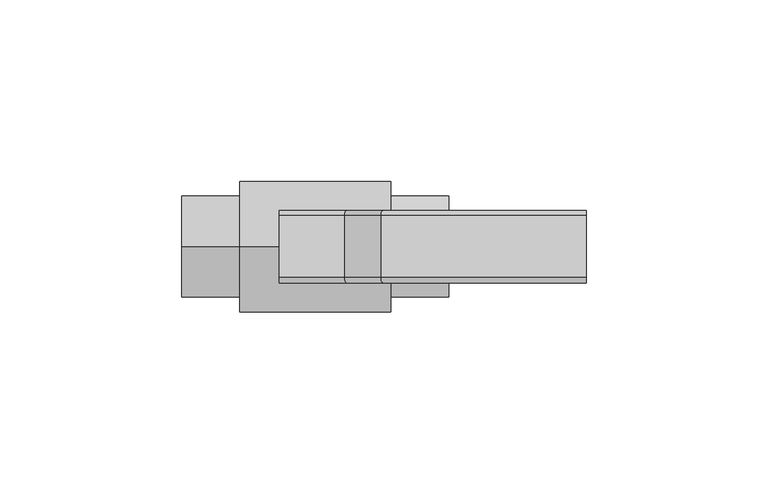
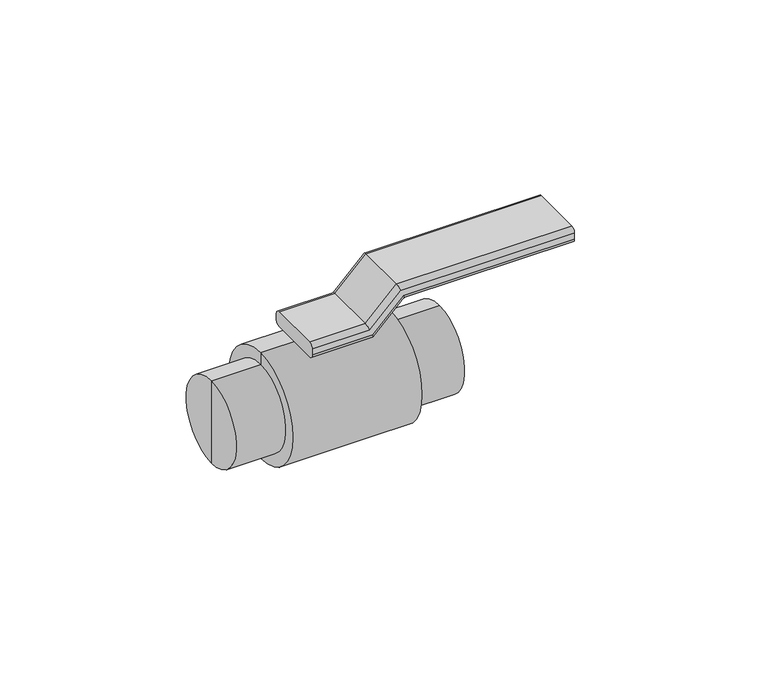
"""IFC4 building model written with IfcOpenShell, lengths in millimetres: valve geometry, NIRON RED valvula de paso esfera : Estándar."""

from ifc_helpers import new_model, si_unit, frame, origin, place, context, project, spatial, circle_curve, ellipse_curve, source, transform, mapped, element, save
from ifc_brep_helpers import plane_surface, cylinder_surface, advanced_brep


def valve_88f586d3(model_context):
    return source(origin(), model_context, "Body", "AdvancedBrep", [
        advanced_brep(
        [(-10.0, 8.4844945, 18.0), (-10.0, -8.5, 18.0), (-10.0, -10.0, 19.5), (-10.0, -10.0, 21.5), (-10.0, -8.5, 23.0), (-10.0, 8.5, 23.0), (-10.0, 10.0, 21.5), (-10.0, 10.0, 19.5155055), (10.0, 8.4844945, 18.0), (10.0, -8.5, 18.0), (9.3786797, -10.0, 19.5), (19.3786797, -10.0, 29.5), (74.5, -10.0, 29.5), (74.5, -10.0, 31.5), (18.5502525, -10.0, 31.5), (8.5502525, -10.0, 21.5), (7.9289322, -8.5, 23.0), (7.9289322, 8.5, 23.0), (8.5502525, 10.0, 21.5), (18.5502525, 10.0, 31.5), (74.5, 10.0, 31.5), (74.5, 10.0, 29.5155055), (19.3722571, 10.0, 29.5155055), (9.3722571, 10.0, 19.5155055), (20.0, 8.4844945, 28.0), (20.0, -8.5, 28.0), (17.9289322, -8.5, 33.0), (17.9289322, 8.5, 33.0), (74.5, 8.4844945, 28.0), (74.5, 8.5, 33.0), (74.5, -8.5, 33.0), (74.5, -8.5, 28.0)],
        [
            (0, 1),
            (1, 2, circle_curve(frame((-10.0, -8.5, 19.5), z_axis=(-1.0, 0.0, 0.0), x_axis=(0.0, 0.0, 1.0)), 1.5)),
            (2, 3),
            (3, 4, circle_curve(frame((-10.0, -8.5, 21.5), z_axis=(-1.0, 0.0, 0.0), x_axis=(0.0, 0.0, 1.0)), 1.5)),
            (4, 5),
            (5, 6, circle_curve(frame((-10.0, 8.5, 21.5), z_axis=(-1.0, 0.0, 0.0), x_axis=(0.0, 0.0, 1.0)), 1.5)),
            (6, 7),
            (7, 0, circle_curve(frame((-10.0, 8.4844945, 19.5155055), z_axis=(-1.0, 0.0, 0.0), x_axis=(0.0, 0.0, 1.0)), 1.5155055)),
            (0, 8),
            (8, 9),
            (9, 1),
            (9, 10, ellipse_curve(frame((9.3786797, -8.5, 19.5), z_axis=(-0.9238795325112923, 0.0, -0.38268343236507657), x_axis=(-0.38268343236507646, 0.0, 0.9238795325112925)), 1.6235883, 1.5)),
            (10, 2),
            (10, 11),
            (11, 12),
            (12, 13),
            (13, 14),
            (14, 15),
            (15, 3),
            (15, 16, ellipse_curve(frame((8.5502525, -8.5, 21.5), z_axis=(-0.9238795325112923, 0.0, -0.38268343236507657), x_axis=(-0.38268343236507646, 0.0, 0.9238795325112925)), 1.6235883, 1.5)),
            (16, 4),
            (16, 17),
            (17, 5),
            (17, 18, ellipse_curve(frame((8.5502525, 8.5, 21.5), z_axis=(-0.9238795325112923, 0.0, -0.38268343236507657), x_axis=(-0.38268343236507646, 0.0, 0.9238795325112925)), 1.6235883, 1.5)),
            (18, 6),
            (18, 19),
            (19, 20),
            (20, 21),
            (21, 22),
            (22, 23),
            (23, 7),
            (23, 8, ellipse_curve(frame((9.3722571, 8.4844945, 19.5155055), z_axis=(-0.9238795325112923, 0.0, -0.38268343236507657), x_axis=(-0.38268343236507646, 0.0, 0.9238795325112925)), 1.6403713, 1.5155055)),
            (8, 24),
            (24, 25),
            (25, 9),
            (25, 11, ellipse_curve(frame((19.3786797, -8.5, 29.5), z_axis=(-0.9238795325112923, 0.0, -0.38268343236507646), x_axis=(0.3826834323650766, 0.0, -0.9238795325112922)), 1.6235883, 1.5)),
            (14, 26, ellipse_curve(frame((18.5502525, -8.5, 31.5), z_axis=(-0.9238795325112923, 0.0, -0.38268343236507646), x_axis=(0.3826834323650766, 0.0, -0.9238795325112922)), 1.6235883, 1.5)),
            (26, 16),
            (26, 27),
            (27, 17),
            (27, 19, ellipse_curve(frame((18.5502525, 8.5, 31.5), z_axis=(-0.9238795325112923, 0.0, -0.38268343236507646), x_axis=(0.3826834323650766, 0.0, -0.9238795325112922)), 1.6235883, 1.5)),
            (22, 24, ellipse_curve(frame((19.3722571, 8.4844945, 29.5155055), z_axis=(-0.9238795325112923, 0.0, -0.38268343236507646), x_axis=(0.3826834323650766, 0.0, -0.9238795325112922)), 1.6403713, 1.5155055)),
            (28, 21, circle_curve(frame((74.5, 8.4844945, 29.5155055), z_axis=(1.0, 0.0, 0.0), x_axis=(0.0, 0.0, 1.0)), 1.5155055)),
            (20, 29, circle_curve(frame((74.5, 8.5, 31.5), z_axis=(1.0, 0.0, 0.0), x_axis=(0.0, 0.0, 1.0)), 1.5)),
            (29, 30),
            (30, 13, circle_curve(frame((74.5, -8.5, 31.5), z_axis=(1.0, 0.0, 0.0), x_axis=(0.0, 0.0, 1.0)), 1.5)),
            (12, 31, circle_curve(frame((74.5, -8.5, 29.5), z_axis=(1.0, 0.0, 0.0), x_axis=(0.0, 0.0, 1.0)), 1.5)),
            (31, 28),
            (24, 28),
            (31, 25),
            (30, 26),
            (29, 27),
        ],
        [
            plane_surface(frame((-10.0, 0.0, 18.0), z_axis=(-1.0, 0.0, 0.0), x_axis=(0.0, -1.0, 0.0))),
            plane_surface(frame((-10.0, 8.4844945, 18.0), z_axis=(0.0, 0.0, -1.0), x_axis=(1.0, 0.0, 0.0))),
            cylinder_surface(frame((-10.0, -8.5, 19.5), z_axis=(-1.0, 0.0, 0.0), x_axis=(0.0, 0.0, 1.0)), 1.5),
            plane_surface(frame((-10.0, -10.0, 19.5), z_axis=(0.0, -1.0, 0.0), x_axis=(1.0, 0.0, 0.0))),
            cylinder_surface(frame((-10.0, -8.5, 21.5), z_axis=(-1.0, 0.0, 0.0), x_axis=(0.0, 0.0, 1.0)), 1.5),
            plane_surface(frame((-10.0, -8.5, 23.0), z_axis=(0.0, 0.0, 1.0), x_axis=(1.0, 0.0, 0.0))),
            cylinder_surface(frame((-10.0, 8.5, 21.5), z_axis=(-1.0, 0.0, 0.0), x_axis=(0.0, 0.0, 1.0)), 1.5),
            plane_surface(frame((-10.0, 10.0, 21.5), z_axis=(0.0, 1.0, 0.0), x_axis=(1.0, 0.0, 0.0))),
            cylinder_surface(frame((-10.0, 8.4844945, 19.5155055), z_axis=(-1.0, 0.0, 0.0), x_axis=(0.0, 0.0, 1.0)), 1.5155055),
            plane_surface(frame((10.0, 8.4844945, 18.0), z_axis=(0.7071067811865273, 0.0, -0.7071067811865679), x_axis=(0.7071067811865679, 0.0, 0.7071067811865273))),
            cylinder_surface(frame((8.9393398, -8.5, 19.0606602), z_axis=(-0.7071067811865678, 0.0, -0.7071067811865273), x_axis=(-0.7071067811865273, 0.0, 0.7071067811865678)), 1.5),
            cylinder_surface(frame((7.5251263, -8.5, 20.4748737), z_axis=(-0.7071067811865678, 0.0, -0.7071067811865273), x_axis=(-0.7071067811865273, 0.0, 0.7071067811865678)), 1.5),
            plane_surface(frame((7.9289322, -8.5, 23.0), z_axis=(-0.7071067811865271, 0.0, 0.7071067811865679), x_axis=(0.7071067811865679, 0.0, 0.7071067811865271))),
            cylinder_surface(frame((7.5251263, 8.5, 20.4748737), z_axis=(-0.7071067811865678, 0.0, -0.7071067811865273), x_axis=(-0.7071067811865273, 0.0, 0.7071067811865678)), 1.5),
            cylinder_surface(frame((8.9283758, 8.4844945, 19.0716242), z_axis=(-0.7071067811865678, 0.0, -0.7071067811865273), x_axis=(-0.7071067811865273, 0.0, 0.7071067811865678)), 1.5155055),
            plane_surface(frame((74.5, 0.0, 28.0), z_axis=(1.0, 0.0, 0.0), x_axis=(0.0, -1.0, 0.0))),
            plane_surface(frame((20.0, 8.4844945, 28.0), z_axis=(0.0, 0.0, -1.0), x_axis=(1.0, 0.0, 0.0))),
            cylinder_surface(frame((20.0, -8.5, 29.5), z_axis=(-1.0, 0.0, 0.0), x_axis=(0.0, 0.0, 1.0)), 1.5),
            cylinder_surface(frame((20.0, -8.5, 31.5), z_axis=(-1.0, 0.0, 0.0), x_axis=(0.0, 0.0, 1.0)), 1.5),
            plane_surface(frame((17.9289322, -8.5, 33.0), z_axis=(0.0, 0.0, 1.0), x_axis=(1.0, 0.0, 0.0))),
            cylinder_surface(frame((20.0, 8.5, 31.5), z_axis=(-1.0, 0.0, 0.0), x_axis=(0.0, 0.0, 1.0)), 1.5),
            cylinder_surface(frame((20.0, 8.4844945, 29.5155055), z_axis=(-1.0, 0.0, 0.0), x_axis=(0.0, 0.0, 1.0)), 1.5155055),
        ],
        [
            (0, [[1, 2, 3, 4, 5, 6, 7, 8]]),
            (1, [[-1, 9, 10, 11]]),
            (2, [[-2, -11, 12, 13]]),
            (3, [[-3, -13, 14, 15, 16, 17, 18, 19]]),
            (4, [[-4, -19, 20, 21]]),
            (5, [[-5, -21, 22, 23]]),
            (6, [[-6, -23, 24, 25]]),
            (7, [[-7, -25, 26, 27, 28, 29, 30, 31]]),
            (8, [[-8, -31, 32, -9]]),
            (9, [[-10, 33, 34, 35]]),
            (10, [[-12, -35, 36, -14]]),
            (11, [[-20, -18, 37, 38]]),
            (12, [[-22, -38, 39, 40]]),
            (13, [[-24, -40, 41, -26]]),
            (14, [[-32, -30, 42, -33]]),
            (15, [[43, -28, 44, 45, 46, -16, 47, 48]]),
            (16, [[-34, 49, -48, 50]]),
            (17, [[-36, -50, -47, -15]]),
            (18, [[-37, -17, -46, 51]]),
            (19, [[-39, -51, -45, 52]]),
            (20, [[-41, -52, -44, -27]]),
            (21, [[-42, -29, -43, -49]]),
        ],
    ),
        advanced_brep(
        [(-36.75, 0.0, 0.0), (-36.75, 0.0, 14.0), (-36.75, 0.0, -14.0), (36.75, 0.0, -14.0), (36.75, 0.0, 14.0), (36.75, 0.0, 0.0), (20.75, 0.0, -14.0), (20.75, 0.0, 14.0), (20.75, 0.0, -18.0), (20.75, 0.0, 18.0), (-20.75, 0.0, -18.0), (-20.75, 0.0, 18.0), (-20.75, 0.0, -14.0), (-20.75, 0.0, 14.0)],
        [
            (0, 1),
            (1, 2, circle_curve(frame((-36.75, 0.0, 0.0), z_axis=(-1.0, 0.0, 0.0), x_axis=(0.0, 0.0, 1.0)), 14.0)),
            (2, 0),
            (2, 1, circle_curve(frame((-36.75, 0.0, 0.0), z_axis=(-1.0, 0.0, 0.0), x_axis=(0.0, 0.0, 1.0)), 14.0)),
            (3, 4, circle_curve(frame((36.75, 0.0, 0.0), z_axis=(1.0, 0.0, 0.0), x_axis=(0.0, 0.0, 1.0)), 14.0)),
            (4, 5),
            (5, 3),
            (4, 3, circle_curve(frame((36.75, 0.0, 0.0), z_axis=(1.0, 0.0, 0.0), x_axis=(0.0, 0.0, 1.0)), 14.0)),
            (6, 7, circle_curve(frame((20.75, 0.0, 0.0), z_axis=(1.0, 0.0, 0.0), x_axis=(0.0, 0.0, 1.0)), 14.0)),
            (7, 4),
            (3, 6),
            (7, 6, circle_curve(frame((20.75, 0.0, 0.0), z_axis=(1.0, 0.0, 0.0), x_axis=(0.0, 0.0, 1.0)), 14.0)),
            (8, 9, circle_curve(frame((20.75, 0.0, 0.0), z_axis=(1.0, 0.0, 0.0), x_axis=(0.0, 0.0, 1.0)), 18.0)),
            (9, 7),
            (6, 8),
            (9, 8, circle_curve(frame((20.75, 0.0, 0.0), z_axis=(1.0, 0.0, 0.0), x_axis=(0.0, 0.0, 1.0)), 18.0)),
            (10, 11, circle_curve(frame((-20.75, 0.0, 0.0), z_axis=(1.0, 0.0, 0.0), x_axis=(0.0, 0.0, 1.0)), 18.0)),
            (11, 9),
            (8, 10),
            (11, 10, circle_curve(frame((-20.75, 0.0, 0.0), z_axis=(1.0, 0.0, 0.0), x_axis=(0.0, 0.0, 1.0)), 18.0)),
            (12, 13, circle_curve(frame((-20.75, 0.0, 0.0), z_axis=(1.0, 0.0, 0.0), x_axis=(0.0, 0.0, 1.0)), 14.0)),
            (13, 11),
            (10, 12),
            (13, 12, circle_curve(frame((-20.75, 0.0, 0.0), z_axis=(1.0, 0.0, 0.0), x_axis=(0.0, 0.0, 1.0)), 14.0)),
            (1, 13),
            (12, 2),
        ],
        [
            plane_surface(frame((-36.75, 0.0, 0.0), z_axis=(-1.0, 0.0, 0.0), x_axis=(0.0, 0.0, 1.0))),
            plane_surface(frame((36.75, 0.0, 0.0), z_axis=(1.0, 0.0, 0.0), x_axis=(0.0, 0.0, 1.0))),
            cylinder_surface(frame((-1342.296, 0.0, 0.0), z_axis=(-1.0, 0.0, 0.0), x_axis=(0.0, 0.0, 1.0)), 14.0),
            plane_surface(frame((20.75, 0.0, 0.0), z_axis=(1.0, 0.0, 0.0), x_axis=(0.0, 0.0, 1.0))),
            cylinder_surface(frame((-1342.296, 0.0, 0.0), z_axis=(-1.0, 0.0, 0.0), x_axis=(0.0, 0.0, 1.0)), 18.0),
            plane_surface(frame((-20.75, 0.0, 0.0), z_axis=(-1.0, 0.0, 0.0), x_axis=(0.0, 0.0, 1.0))),
        ],
        [
            (0, [[1, 2, 3]]),
            (0, [[-3, 4, -1]]),
            (1, [[5, 6, 7]]),
            (1, [[8, -7, -6]]),
            (2, [[9, 10, -5, 11]]),
            (2, [[12, -11, -8, -10]]),
            (3, [[13, 14, -9, 15]]),
            (3, [[16, -15, -12, -14]]),
            (4, [[17, 18, -13, 19]]),
            (4, [[20, -19, -16, -18]]),
            (5, [[21, 22, -17, 23]]),
            (5, [[24, -23, -20, -22]]),
            (2, [[-2, 25, -21, 26]]),
            (2, [[-4, -26, -24, -25]]),
        ],
    ),
    ])


if __name__ == "__main__":
    model = new_model("IFC4")
    model_context = context("Model", 3, world=origin())
    ifc_project = project(units=[si_unit("LENGTHUNIT", "METRE", prefix="MILLI")], contexts=[model_context])
    site = spatial("IfcSite", under=ifc_project)
    building = spatial("IfcBuilding", under=site)
    placement = place(None, origin())
    valve_shape = valve_88f586d3(model_context)
    element("IfcValve", 1, ObjectType="NIRON RED valvula de paso esfera : Estándar", at=placement, inside=building, context=model_context, shape_type="MappedRepresentation", body=[
        mapped(valve_shape, transform((0.0, 0.0, 0.0), x_axis=(1.0, 0.0, 0.0), y_axis=(0.0, 1.0, 0.0), z_axis=(0.0, 0.0, 1.0))),
    ])
    save(model, "model.ifc")
